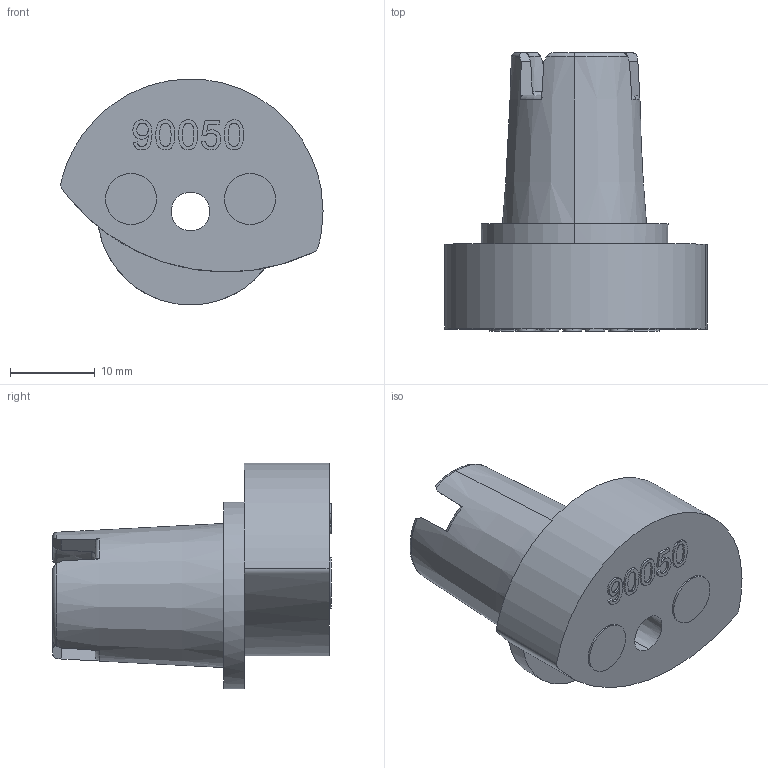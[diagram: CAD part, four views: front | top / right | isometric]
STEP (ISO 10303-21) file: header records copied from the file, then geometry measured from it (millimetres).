
FILE_DESCRIPTION (( 'STEP AP214' ), '1' );
FILE_NAME ('10029V000_Exzenter_Notentriegelung_Index_3.STEP', '2014-11-19T15:23:46', ( 'Admin' ), ( '' ), 'SwSTEP 2.0', 'SolidWorks 2014', '' );
FILE_SCHEMA (( 'AUTOMOTIVE_DESIGN' ));
Length unit declared in the file: millimetre
Products named in the file (1): 10029V000_Exzenter_Notentriegelung_Index_3
Bounding box: 30.85 x 32.75 x 26.59 mm (x, y, z)
Volume: 9026.6 mm3; surface area: 3660.8 mm2
Topology: 1 solids, 1 shells, 124 faces, 323 edges, 213 vertices
Faces by surface type: bspline 54, plane 39, torus 15, cone 10, cylinder 6
Entity records: 7185 total; most frequent: CARTESIAN_POINT 4542, ORIENTED_EDGE 646, DIRECTION 361, EDGE_CURVE 323, VERTEX_POINT 213, B_SPLINE_CURVE_WITH_KNOTS 141, EDGE_LOOP 138, AXIS2_PLACEMENT_3D 126
